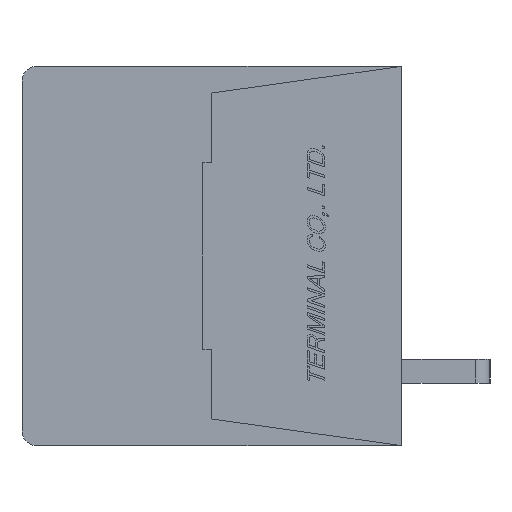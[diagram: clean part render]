
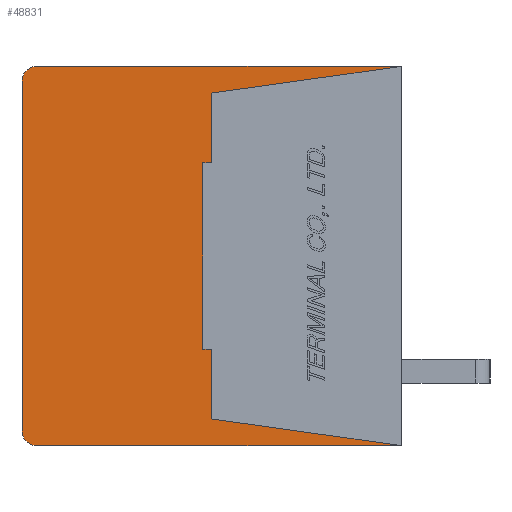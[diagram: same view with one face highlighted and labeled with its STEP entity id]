
A CAD part, left-side view. The second image highlights one B-rep face of the part: STEP entity #48831.
In plain terms, the highlighted planar face has unit normal (-1, 0, 0).
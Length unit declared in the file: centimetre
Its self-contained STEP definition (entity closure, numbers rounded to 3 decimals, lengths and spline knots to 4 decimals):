
#2483=CIRCLE('',#83722,0.05);
#2484=CIRCLE('',#83725,0.05);
#4247=VERTEX_POINT('',#67641);
#4248=VERTEX_POINT('',#67643);
#4249=VERTEX_POINT('',#67647);
#4250=VERTEX_POINT('',#67651);
#4251=VERTEX_POINT('',#67655);
#4252=VERTEX_POINT('',#67659);
#4253=VERTEX_POINT('',#67663);
#4254=VERTEX_POINT('',#67665);
#4255=VERTEX_POINT('',#67667);
#4256=VERTEX_POINT('',#67669);
#4257=VERTEX_POINT('',#67671);
#4258=VERTEX_POINT('',#67673);
#9412=VECTOR('',#56625,1.);
#9416=VECTOR('',#56634,1.);
#9419=VECTOR('',#56642,1.);
#9420=VECTOR('',#56644,1.);
#9421=VECTOR('',#56645,1.);
#9422=VECTOR('',#56646,1.);
#9423=VECTOR('',#56647,1.);
#9424=VECTOR('',#56648,1.);
#9425=VECTOR('',#56649,1.);
#9426=VECTOR('',#56650,1.);
#15155=LINE('',#67642,#9412);
#15159=LINE('',#67652,#9416);
#15162=LINE('',#67660,#9419);
#15163=LINE('',#67662,#9420);
#15164=LINE('',#67664,#9421);
#15165=LINE('',#67666,#9422);
#15166=LINE('',#67668,#9423);
#15167=LINE('',#67670,#9424);
#15168=LINE('',#67672,#9425);
#15169=LINE('',#67674,#9426);
#21532=EDGE_CURVE('',#4248,#4247,#15155,.T.);
#21535=EDGE_CURVE('',#4249,#4247,#2483,.T.);
#21537=EDGE_CURVE('',#4249,#4250,#15159,.T.);
#21539=EDGE_CURVE('',#4251,#4250,#2484,.T.);
#21541=EDGE_CURVE('',#4251,#4252,#15162,.T.);
#21542=EDGE_CURVE('',#4253,#4248,#15163,.T.);
#21543=EDGE_CURVE('',#4252,#4254,#15164,.T.);
#21544=EDGE_CURVE('',#4254,#4255,#15165,.T.);
#21545=EDGE_CURVE('',#4255,#4256,#15166,.T.);
#21546=EDGE_CURVE('',#4256,#4257,#15167,.T.);
#21547=EDGE_CURVE('',#4257,#4258,#15168,.T.);
#21548=EDGE_CURVE('',#4258,#4253,#15169,.T.);
#31338=ORIENTED_EDGE('',*,*,#21542,.T.);
#31339=ORIENTED_EDGE('',*,*,#21532,.T.);
#31340=ORIENTED_EDGE('',*,*,#21535,.F.);
#31341=ORIENTED_EDGE('',*,*,#21537,.T.);
#31342=ORIENTED_EDGE('',*,*,#21539,.F.);
#31343=ORIENTED_EDGE('',*,*,#21541,.T.);
#31344=ORIENTED_EDGE('',*,*,#21543,.T.);
#31345=ORIENTED_EDGE('',*,*,#21544,.T.);
#31346=ORIENTED_EDGE('',*,*,#21545,.T.);
#31347=ORIENTED_EDGE('',*,*,#21546,.T.);
#31348=ORIENTED_EDGE('',*,*,#21547,.T.);
#31349=ORIENTED_EDGE('',*,*,#21548,.T.);
#42499=EDGE_LOOP('',(#31338,#31339,#31340,#31341,#31342,#31343,#31344,#31345,
#31346,#31347,#31348,#31349));
#45732=FACE_BOUND('',#42499,.T.);
#48831=ADVANCED_FACE('',(#45732),#51532,.F.);
#51532=PLANE('',#83727);
#56625=DIRECTION('',(0.,1.,0.));
#56630=DIRECTION('',(1.,0.,0.));
#56631=DIRECTION('',(0.,0.,-0.05));
#56634=DIRECTION('',(0.,0.,-1.));
#56638=DIRECTION('',(1.,0.,0.));
#56639=DIRECTION('',(0.,0.,-0.05));
#56642=DIRECTION('',(0.,-1.,0.));
#56643=DIRECTION('',(1.,0.,0.));
#56644=DIRECTION('',(0.,-0.99,0.139));
#56645=DIRECTION('',(0.,0.99,0.139));
#56646=DIRECTION('',(0.,0.,1.));
#56647=DIRECTION('',(0.,1.,0.));
#56648=DIRECTION('',(0.,0.,1.));
#56649=DIRECTION('',(0.,-1.,0.));
#56650=DIRECTION('',(0.,0.,1.));
#67641=CARTESIAN_POINT('',(-0.889,1.23,0.64));
#67642=CARTESIAN_POINT('',(-0.889,0.,0.64));
#67643=CARTESIAN_POINT('',(-0.889,0.,0.64));
#67647=CARTESIAN_POINT('',(-0.889,1.28,0.59));
#67648=CARTESIAN_POINT('',(-0.889,1.23,0.59));
#67651=CARTESIAN_POINT('',(-0.889,1.28,-0.59));
#67652=CARTESIAN_POINT('',(-0.889,1.28,0.59));
#67655=CARTESIAN_POINT('',(-0.889,1.23,-0.64));
#67656=CARTESIAN_POINT('',(-0.889,1.23,-0.59));
#67659=CARTESIAN_POINT('',(-0.889,0.,-0.64));
#67660=CARTESIAN_POINT('',(-0.889,1.23,-0.64));
#67661=CARTESIAN_POINT('',(-0.889,0.6345,0.));
#67662=CARTESIAN_POINT('',(-0.889,0.64,0.55));
#67663=CARTESIAN_POINT('',(-0.889,0.64,0.55));
#67664=CARTESIAN_POINT('',(-0.889,0.,-0.64));
#67665=CARTESIAN_POINT('',(-0.889,0.64,-0.55));
#67666=CARTESIAN_POINT('',(-0.889,0.64,-0.55));
#67667=CARTESIAN_POINT('',(-0.889,0.64,-0.315));
#67668=CARTESIAN_POINT('',(-0.889,0.64,-0.315));
#67669=CARTESIAN_POINT('',(-0.889,0.67,-0.315));
#67670=CARTESIAN_POINT('',(-0.889,0.67,-0.315));
#67671=CARTESIAN_POINT('',(-0.889,0.67,0.315));
#67672=CARTESIAN_POINT('',(-0.889,0.67,0.315));
#67673=CARTESIAN_POINT('',(-0.889,0.64,0.315));
#67674=CARTESIAN_POINT('',(-0.889,0.64,0.315));
#83722=AXIS2_PLACEMENT_3D('',#67648,#56630,#56631);
#83725=AXIS2_PLACEMENT_3D('',#67656,#56638,#56639);
#83727=AXIS2_PLACEMENT_3D('',#67661,#56643,$);
